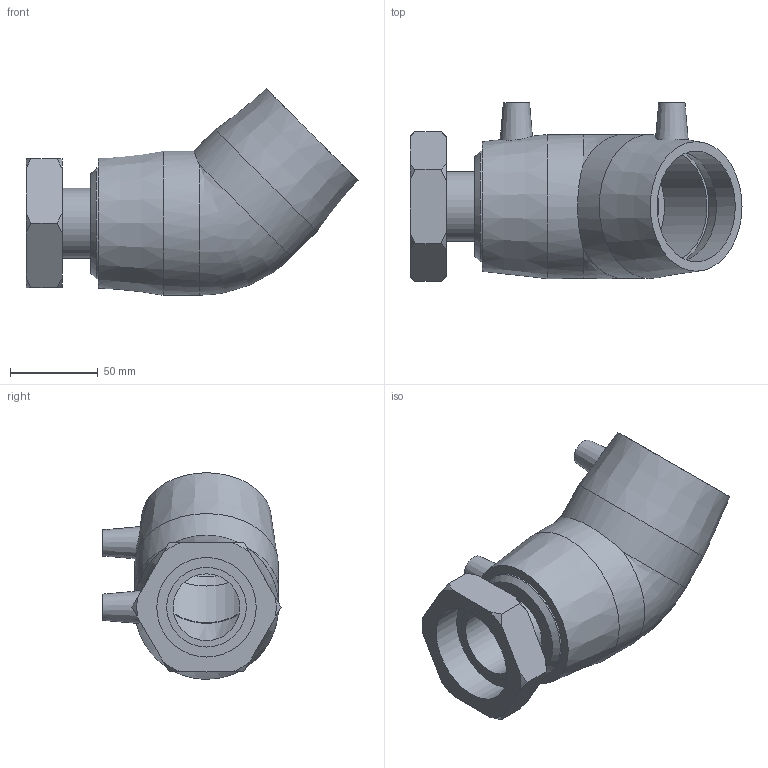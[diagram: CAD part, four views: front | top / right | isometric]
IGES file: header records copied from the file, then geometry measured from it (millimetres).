
Global section: file name: 494604063020.ipt; native system: Autodesk Inventor 2015; preprocessor: unknown; author: KIM; date: 20171106.094156; units: millimetre
Bounding box: 189 x 101.49 x 117.59 mm (x, y, z)
Volume: 470365.2 mm3; surface area: 92375.5 mm2
Topology: 1 solids, 2 shells, 60 faces, 147 edges, 100 vertices
Faces by surface type: plane 23, cone 17, revolution 11, cylinder 8, bspline 1
Full cylindrical faces by diameter (mm): 4 x2, 39.659 x1, 45.325 x1, 63 x2, 82 x2
